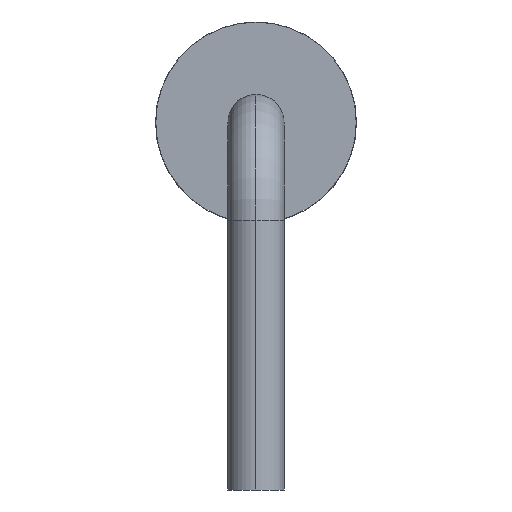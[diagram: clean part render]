
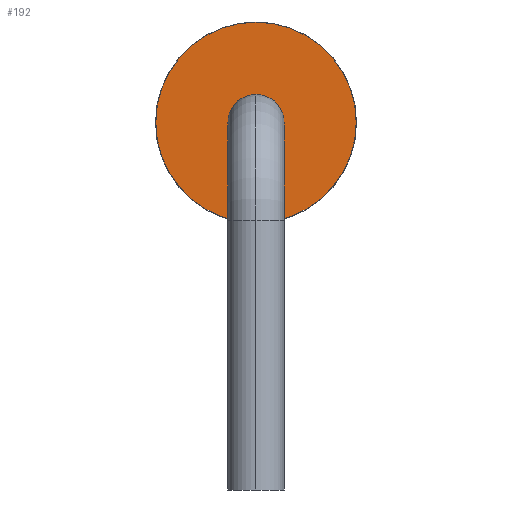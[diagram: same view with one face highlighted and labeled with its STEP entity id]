
A CAD part, left-side view. The second image highlights one B-rep face of the part: STEP entity #192.
In plain terms, the highlighted planar face has unit normal (-1, 0, 0).
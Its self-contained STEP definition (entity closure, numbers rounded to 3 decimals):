
#192=ADVANCED_FACE($,(#198),#194,.T.);
#194=PLANE($,#219);
#198=FACE_OUTER_BOUND($,#202,.T.);
#202=EDGE_LOOP($,(#212));
#203=CIRCLE($,#216,0.953);
#205=VERTEX_POINT('',#234);
#207=EDGE_CURVE($,#205,#205,#203,.T.);
#212=ORIENTED_EDGE($,*,*,#207,.T.);
#216=AXIS2_PLACEMENT_3D($,#235,#224,#225);
#219=AXIS2_PLACEMENT_3D($,#239,#230,#231);
#224=DIRECTION('',(-1.,0.,0.));
#225=DIRECTION('',(0.,0.,1.));
#230=DIRECTION('',(-1.,0.,0.));
#231=DIRECTION('',(0.,1.,0.));
#234=CARTESIAN_POINT('',(13.995,0.0,0.0));
#235=CARTESIAN_POINT('',(13.995,0.0,0.952));
#239=CARTESIAN_POINT('',(13.995,0.0,0.952));
